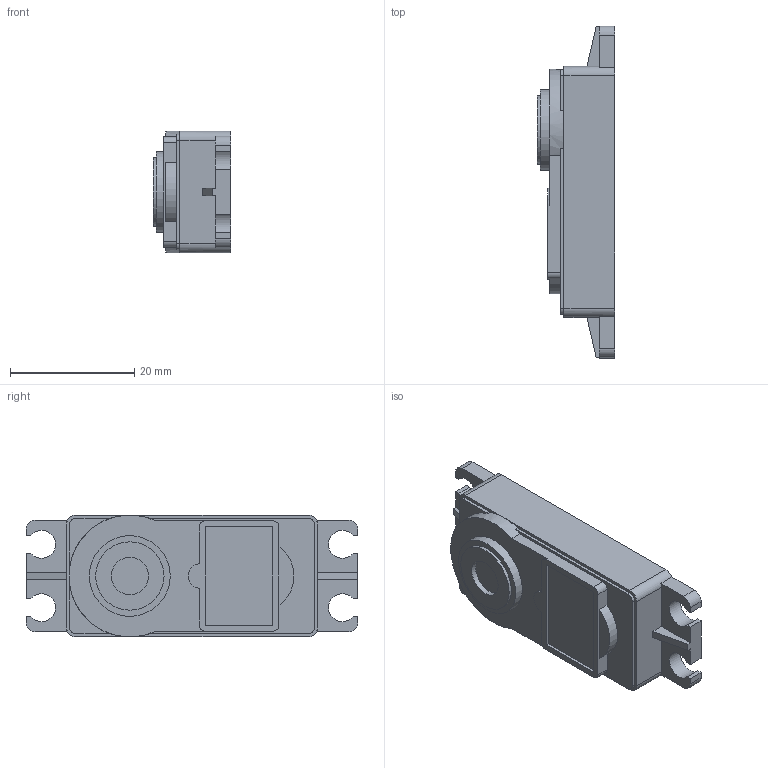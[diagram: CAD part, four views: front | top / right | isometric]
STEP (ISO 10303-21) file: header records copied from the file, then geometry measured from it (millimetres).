
FILE_DESCRIPTION(('Open CASCADE Model'),'2;1');
FILE_NAME('Open CASCADE Shape Model','2026-11-24T19:57:40',('Author'),( 'Open CASCADE'),'Open CASCADE STEP processor 7.8','Open CASCADE 7.8' ,'Unknown');
FILE_SCHEMA(('AUTOMOTIVE_DESIGN { 1 0 10303 214 1 1 1 1 }'));
Length unit declared in the file: millimetre
Products named in the file (1): Open CASCADE STEP translator 7.8 120
Bounding box: 12.5 x 53.4 x 19.6 mm (x, y, z)
Volume: 8558.3 mm3; surface area: 3431.4 mm2
Topology: 1 solids, 1 shells, 87 faces, 241 edges, 160 vertices
Faces by surface type: plane 61, cylinder 26
Full cylindrical faces by diameter (mm): 6 x1, 11 x1, 13 x1
Entity records: 5986 total; most frequent: CARTESIAN_POINT 1100, DIRECTION 939, LINE 592, VECTOR 592, ORIENTED_EDGE 482, PCURVE 482, DEFINITIONAL_REPRESENTATION 482, EDGE_CURVE 241
